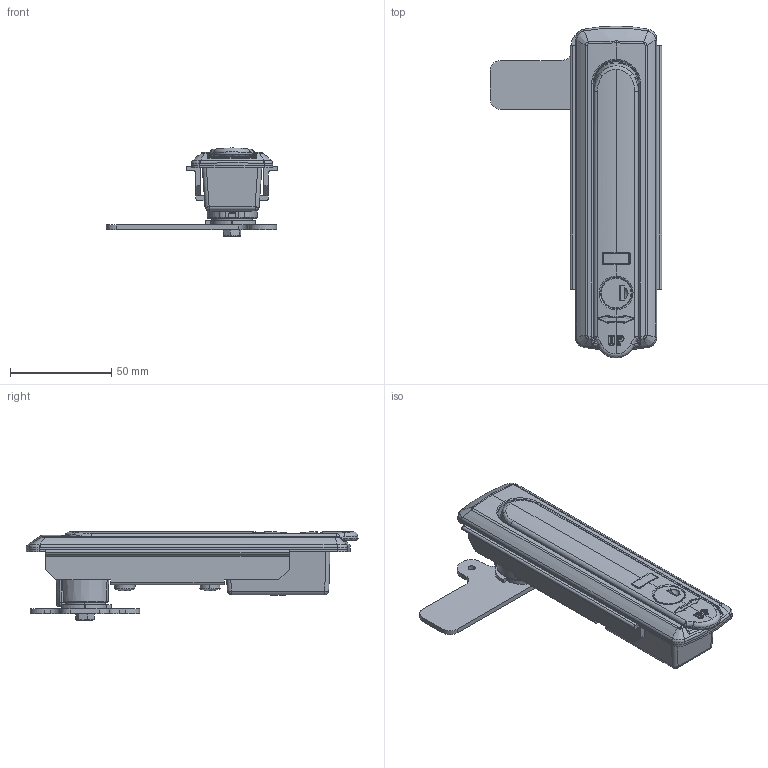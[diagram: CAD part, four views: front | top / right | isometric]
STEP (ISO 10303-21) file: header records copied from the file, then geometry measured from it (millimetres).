
FILE_DESCRIPTION (( 'STEP AP214' ), '1' );
FILE_NAME ('KA-631-1KASSY(14.03.13).STEP', '2016-12-01T02:55:50', ( '' ), ( '' ), 'SwSTEP 2.0', 'SolidWorks 2011', '' );
FILE_SCHEMA (( 'AUTOMOTIVE_DESIGN' ));
Length unit declared in the file: millimetre
Products named in the file (1): KA-631-1KASSY(14.03.13)
Bounding box: 84.5 x 163.63 x 43.39 mm (x, y, z)
Surface area: 67470.4 mm2 (no closed solid volume)
Topology: 0 solids, 8 shells, 1957 faces, 5105 edges, 3155 vertices
Faces by surface type: plane 796, bspline 587, cylinder 474, cone 92, torus 6, sphere 2
Entity records: 114741 total; most frequent: CARTESIAN_POINT 50207, ORIENTED_EDGE 10144, DIRECTION 7305, EDGE_CURVE 5074, VERTEX_POINT 3155, AXIS2_PLACEMENT_3D 2466, VECTOR 2373, LINE 2373
